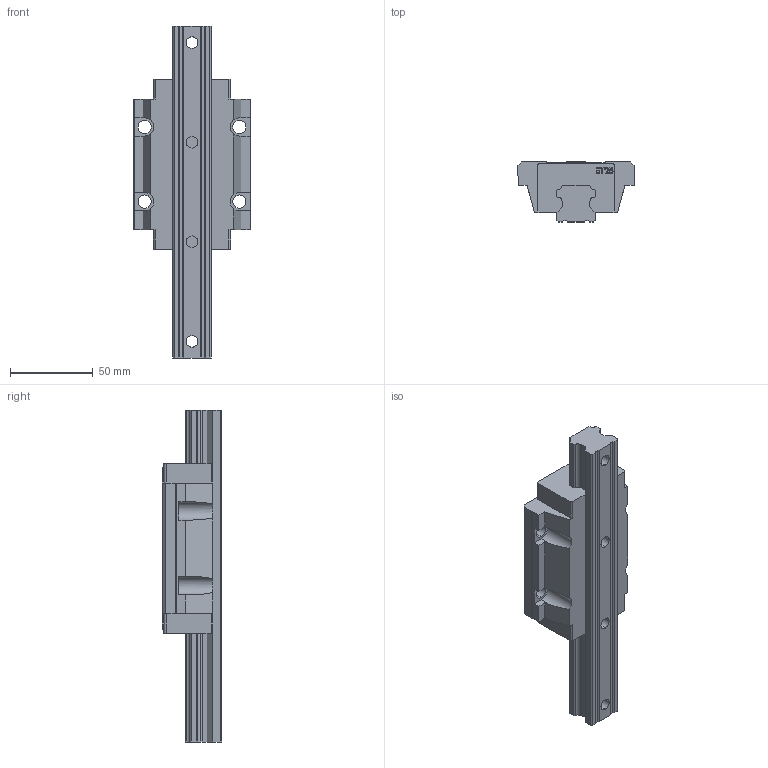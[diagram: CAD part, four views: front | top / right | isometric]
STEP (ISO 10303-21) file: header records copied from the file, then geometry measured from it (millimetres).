
FILE_DESCRIPTION (( 'STEP AP214' ), '1' );
FILE_NAME ('7.1010 Lineaarikelkka HTW25HA.STEP', '2026-03-11T11:13:34', ( '' ), ( '' ), 'SwSTEP 2.0', 'SolidWorks 2025', '' );
FILE_SCHEMA (( 'AUTOMOTIVE_DESIGN' ));
Length unit declared in the file: millimetre
Products named in the file (4): HG_BLOCK_SS_ANY_ASM; HG_RAIL0_R_ANY; 7.1010 Lineaarikelkka HTW25HA; HG_BLOCK_HGWHC_ANY
Assembly tree (3 placements, depth 3):
  7.1010 Lineaarikelkka HTW25HA
    HG_BLOCK_SS_ANY_ASM
      HG_BLOCK_HGWHC_ANY
    HG_RAIL0_R_ANY
Bounding box: 70 x 36 x 200 mm (x, y, z)
Volume: 222954.3 mm3; surface area: 48464.8 mm2
Topology: 2 solids, 2 shells, 726 faces, 2052 edges, 1368 vertices
Faces by surface type: plane 662, cylinder 40, bspline 24
Entity records: 33162 total; most frequent: CARTESIAN_POINT 6277, ORIENTED_EDGE 4104, DIRECTION 3494, EDGE_CURVE 2052, VECTOR 1916, LINE 1916, VERTEX_POINT 1368, AXIS2_PLACEMENT_3D 789
